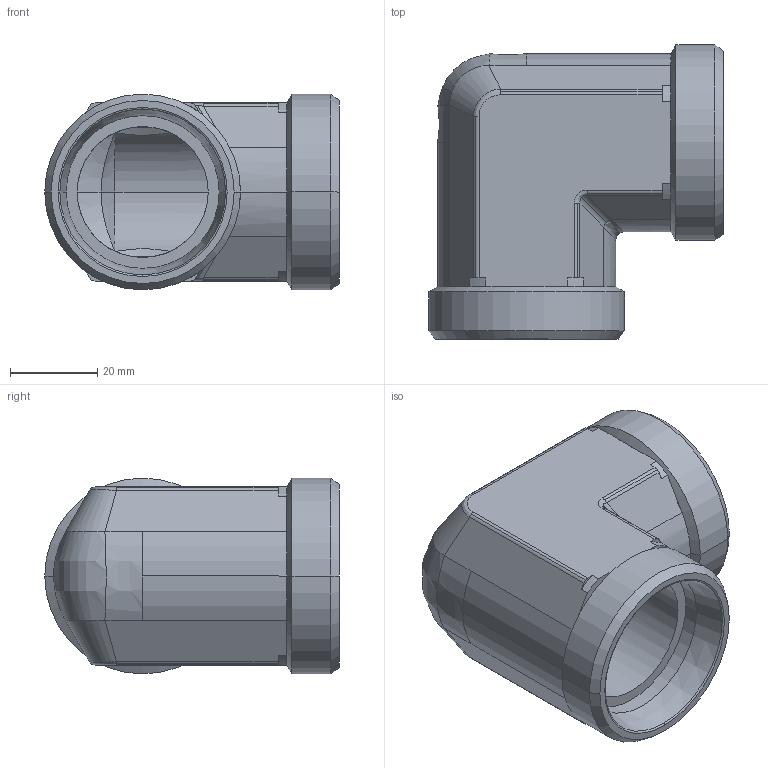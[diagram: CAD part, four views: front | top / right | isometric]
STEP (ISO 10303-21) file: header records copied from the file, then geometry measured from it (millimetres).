
FILE_DESCRIPTION((''),'2;1');
FILE_NAME('103812.stp','2007-10-31T11:53:06',(''),(''),'AutoCAD STEP 2000i','AutoCAD 2000i',', , ');
FILE_SCHEMA(('CONFIG_CONTROL_DESIGN'));
Length unit declared in the file: millimetre
Products named in the file (2): 103812.0; 3090#0
Assembly tree (1 placements, depth 2):
  103812.0
    3090#0
Bounding box: 67.41 x 67.41 x 44.82 mm (x, y, z)
Volume: 58677 mm3; surface area: 22540.3 mm2
Topology: 1 solids, 1 shells, 120 faces, 282 edges, 166 vertices
Faces by surface type: cylinder 52, plane 34, cone 20, bspline 14
Entity records: 4416 total; most frequent: CARTESIAN_POINT 1537, DIRECTION 621, ORIENTED_EDGE 564, EDGE_CURVE 282, AXIS2_PLACEMENT_3D 250, VERTEX_POINT 166, CIRCLE 124, EDGE_LOOP 124
